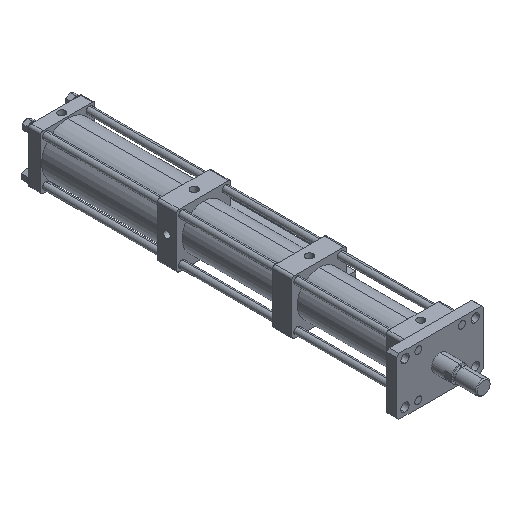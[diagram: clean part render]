
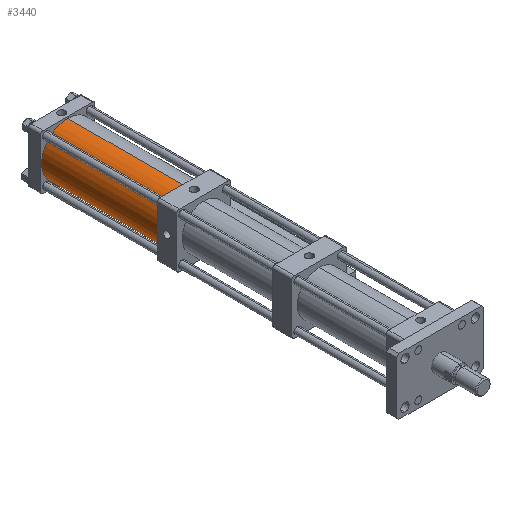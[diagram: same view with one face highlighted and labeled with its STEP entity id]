
A CAD part, isometric view. The second image highlights one B-rep face of the part: STEP entity #3440.
In plain terms, the highlighted cylindrical face has radius 54 mm (diameter 108 mm), a partial arc.
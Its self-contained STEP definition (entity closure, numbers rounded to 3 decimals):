
#88 = CIRCLE ( 'NONE', #7296, 54. ) ;
#191 = CARTESIAN_POINT ( 'NONE',  ( 0., 769.002, -55.638 ) ) ;
#192 = DIRECTION ( 'NONE',  ( 0., 0., 1. ) ) ;
#241 = VERTEX_POINT ( 'NONE', #6686 ) ;
#666 = CARTESIAN_POINT ( 'NONE',  ( 0., 528.002, -55.638 ) ) ;
#879 = CARTESIAN_POINT ( 'NONE',  ( 0., 769.002, -1.638 ) ) ;
#1471 = AXIS2_PLACEMENT_3D ( 'NONE', #6900, #3212, #7523 ) ;
#1485 = VECTOR ( 'NONE', #7524, 1000. ) ;
#1504 = DIRECTION ( 'NONE',  ( 0., 0., -1. ) ) ;
#1709 = EDGE_CURVE ( 'NONE', #7937, #5969, #4660, .T. ) ;
#2355 = CARTESIAN_POINT ( 'NONE',  ( 0., 528.002, 52.362 ) ) ;
#2690 = ORIENTED_EDGE ( 'NONE', *, *, #5570, .F. ) ;
#2829 = VECTOR ( 'NONE', #5981, 1000. ) ;
#3212 = DIRECTION ( 'NONE',  ( 0., 1., 0. ) ) ;
#3214 = CARTESIAN_POINT ( 'NONE',  ( 0., 769.002, -55.638 ) ) ;
#3440 = ADVANCED_FACE ( 'NONE', ( #4373 ), #4205, .T. ) ;
#3534 = CARTESIAN_POINT ( 'NONE',  ( 0., 769.002, 52.362 ) ) ;
#3858 = DIRECTION ( 'NONE',  ( 0., 1., 0. ) ) ;
#4205 = CYLINDRICAL_SURFACE ( 'NONE', #6934, 54. ) ;
#4373 = FACE_OUTER_BOUND ( 'NONE', #5310, .T. ) ;
#4525 = ORIENTED_EDGE ( 'NONE', *, *, #7163, .T. ) ;
#4660 = CIRCLE ( 'NONE', #1471, 54. ) ;
#4840 = VERTEX_POINT ( 'NONE', #191 ) ;
#5310 = EDGE_LOOP ( 'NONE', ( #7051, #2690, #4525, #7973 ) ) ;
#5570 = EDGE_CURVE ( 'NONE', #4840, #241, #88, .T. ) ;
#5777 = DIRECTION ( 'NONE',  ( 0., -1., 0. ) ) ;
#5969 = VERTEX_POINT ( 'NONE', #2355 ) ;
#5981 = DIRECTION ( 'NONE',  ( 0., -1., 0. ) ) ;
#6158 = LINE ( 'NONE', #3214, #1485 ) ;
#6270 = LINE ( 'NONE', #3534, #2829 ) ;
#6529 = EDGE_CURVE ( 'NONE', #241, #5969, #6270, .T. ) ;
#6686 = CARTESIAN_POINT ( 'NONE',  ( 0., 769.002, 52.362 ) ) ;
#6900 = CARTESIAN_POINT ( 'NONE',  ( 0., 528.002, -1.638 ) ) ;
#6934 = AXIS2_PLACEMENT_3D ( 'NONE', #879, #5777, #1504 ) ;
#7051 = ORIENTED_EDGE ( 'NONE', *, *, #6529, .F. ) ;
#7163 = EDGE_CURVE ( 'NONE', #4840, #7937, #6158, .T. ) ;
#7296 = AXIS2_PLACEMENT_3D ( 'NONE', #7546, #3858, #192 ) ;
#7523 = DIRECTION ( 'NONE',  ( 0., 0., 1. ) ) ;
#7524 = DIRECTION ( 'NONE',  ( 0., -1., 0. ) ) ;
#7546 = CARTESIAN_POINT ( 'NONE',  ( 0., 769.002, -1.638 ) ) ;
#7937 = VERTEX_POINT ( 'NONE', #666 ) ;
#7973 = ORIENTED_EDGE ( 'NONE', *, *, #1709, .T. ) ;
